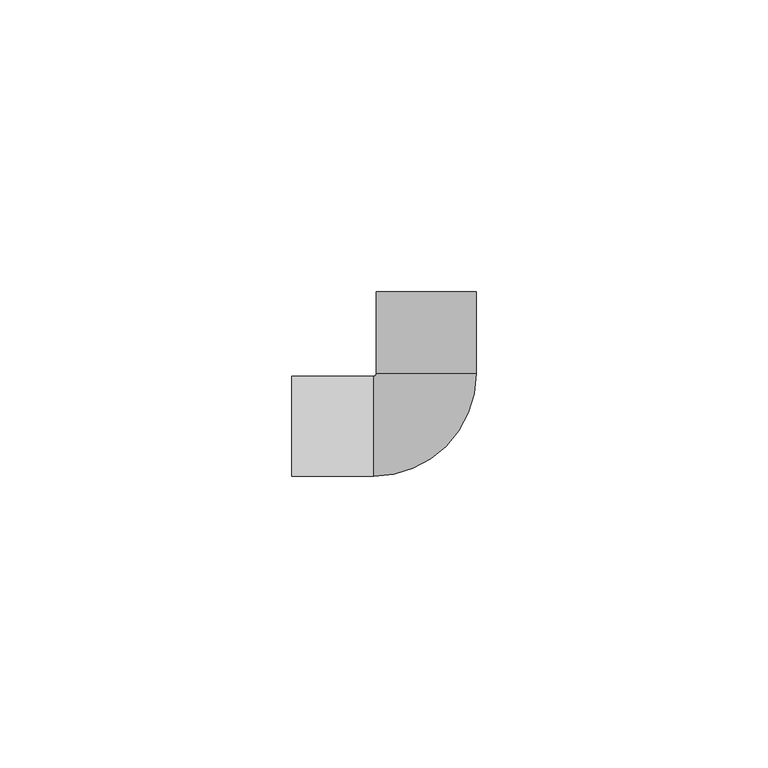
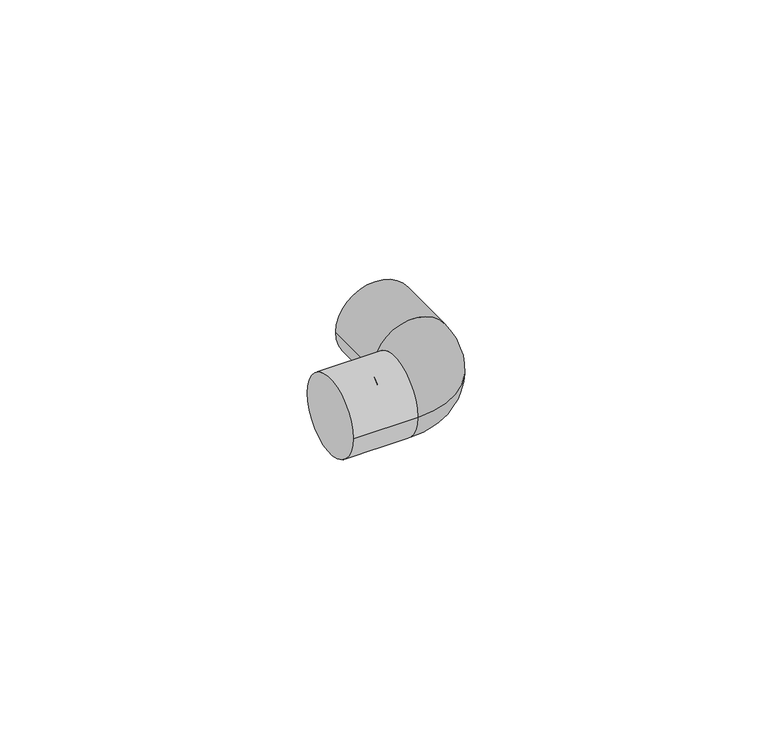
"""IFC4 building model written with IfcOpenShell, lengths in millimetres: pipe fitting geometry, 01051001 : Codos 90º."""

from ifc_helpers import new_model, si_unit, point, frame, origin, place, context, project, spatial, circle_curve, ellipse_curve, trimmed, source, transform, mapped, element, save
from ifc_brep_helpers import plane_surface, cylinder_surface, revolved_surface, advanced_brep


def pipe_fitting_ffbfcfe5(model_context):
    return source(origin(), model_context, "Body", "AdvancedBrep", [
        advanced_brep(
        [(-9.0, -8.55, 0.0), (8.55, 9.0, 0.0), (-8.55, 9.0, 0.0), (-9.0, 8.55, 0.0), (-8.55, 23.0, 0.0), (8.55, 23.0, 0.0), (-23.0, 8.55, 0.0), (-23.0, -8.55, 0.0)],
        [
            (0, 1, circle_curve(frame((-9.0, 9.0, 0.0), z_axis=(0.0, 0.0, 1.0), x_axis=(1.0, 0.0, 0.0)), 17.55)),
            (1, 2, circle_curve(frame((0.0, 9.0, 0.0), z_axis=(0.0, -1.0, 0.0), x_axis=(1.0, 0.0, 0.0)), 8.55)),
            (2, 3, circle_curve(frame((-9.0, 9.0, 0.0), z_axis=(0.0, 0.0, -1.0), x_axis=(1.0, 0.0, 0.0)), 0.45)),
            (3, 0, circle_curve(frame((-9.0, 0.0, 0.0), z_axis=(1.0, 0.0, 0.0), x_axis=(0.0, -1.0, 0.0)), 8.55)),
            (2, 1, circle_curve(frame((0.0, 9.0, 0.0), z_axis=(0.0, -1.0, 0.0), x_axis=(1.0, 0.0, 0.0)), 8.55)),
            (0, 3, circle_curve(frame((-9.0, 0.0, 0.0), z_axis=(1.0, 0.0, 0.0), x_axis=(0.0, -1.0, 0.0)), 8.55)),
            (4, 5, circle_curve(frame((0.0, 23.0, 0.0), z_axis=(0.0, 1.0, 0.0), x_axis=(1.0, 0.0, 0.0)), 8.55)),
            (5, 4, circle_curve(frame((0.0, 23.0, 0.0), z_axis=(0.0, 1.0, 0.0), x_axis=(1.0, 0.0, 0.0)), 8.55)),
            (4, 2),
            (1, 5),
            (6, 7, circle_curve(frame((-23.0, 0.0, 0.0), z_axis=(-1.0, 0.0, 0.0), x_axis=(0.0, -1.0, 0.0)), 8.55)),
            (7, 6, circle_curve(frame((-23.0, 0.0, 0.0), z_axis=(-1.0, 0.0, 0.0), x_axis=(0.0, -1.0, 0.0)), 8.55)),
            (3, 6),
            (7, 0),
        ],
        [
            revolved_surface(trimmed(ellipse_curve(frame((0.0, 9.0, 0.0), z_axis=(0.0, 1.0, 0.0), x_axis=(1.0, 0.0, 0.0)), 8.55, 8.55), [point((-8.55, 9.0, 0.0))], [point((8.55, 9.0, 0.0))], True, "CARTESIAN"), (-9.0, 9.0, 0.0), (0.0, 0.0, -1.0)),
            revolved_surface(trimmed(ellipse_curve(frame((0.0, 9.0, 0.0), z_axis=(0.0, 1.0, 0.0), x_axis=(1.0, 0.0, 0.0)), 8.55, 8.55), [point((8.55, 9.0, 0.0))], [point((-8.55, 9.0, 0.0))], True, "CARTESIAN"), (-9.0, 9.0, 0.0), (0.0, 0.0, -1.0)),
            plane_surface(frame((0.0, 23.0, 0.0), z_axis=(0.0, 1.0, 0.0), x_axis=(0.0, 0.0, 1.0))),
            cylinder_surface(frame((0.0, 23.0, 0.0), z_axis=(0.0, 1.0, 0.0), x_axis=(1.0, 0.0, 0.0)), 8.55),
            plane_surface(frame((-23.0, 0.0, 0.0), z_axis=(-1.0, 0.0, 0.0), x_axis=(0.0, 0.0, 1.0))),
            cylinder_surface(frame((-9.0, 0.0, 0.0), z_axis=(1.0, 0.0, 0.0), x_axis=(0.0, -1.0, 0.0)), 8.55),
        ],
        [
            (0, [[1, 2, 3, 4]]),
            (1, [[-3, 5, -1, 6]]),
            (2, [[7, 8]]),
            (3, [[-7, 9, -2, 10]]),
            (3, [[-8, -10, -5, -9]]),
            (4, [[11, 12]]),
            (5, [[-4, 13, -12, 14]]),
            (5, [[-6, -14, -11, -13]]),
        ],
    ),
    ])


if __name__ == "__main__":
    model = new_model("IFC4")
    model_context = context("Model", 3, world=origin())
    ifc_project = project(units=[si_unit("LENGTHUNIT", "METRE", prefix="MILLI")], contexts=[model_context])
    site = spatial("IfcSite", under=ifc_project)
    building = spatial("IfcBuilding", under=site)
    placement = place(None, origin())
    pipe_fitting_shape = pipe_fitting_ffbfcfe5(model_context)
    element("IfcPipeFitting", 1, ObjectType="01051001 : Codos 90º", at=placement, inside=building, context=model_context, shape_type="MappedRepresentation", body=[
        mapped(pipe_fitting_shape, transform((0.0, 0.0, 0.0), x_axis=(1.0, 0.0, 0.0), y_axis=(0.0, 1.0, 0.0), z_axis=(0.0, 0.0, 1.0))),
    ])
    save(model, "model.ifc")
